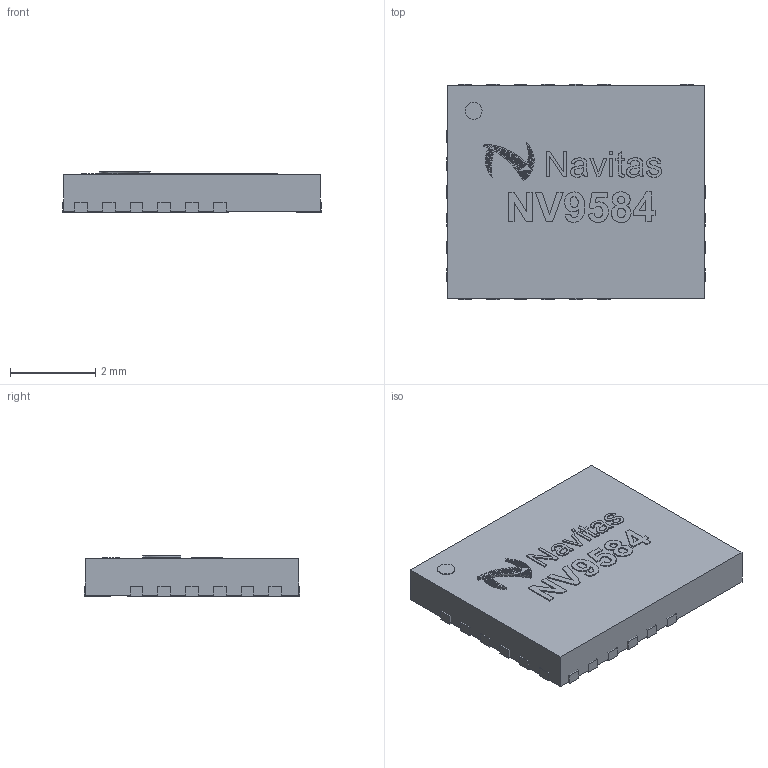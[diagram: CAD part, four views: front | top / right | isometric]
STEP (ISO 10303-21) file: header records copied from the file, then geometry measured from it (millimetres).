
FILE_DESCRIPTION(/* description */ (''),/* implementation_level */ '2;1');
FILE_NAME(/* name */ 'NV9584.step',/* time_stamp */ '2023-02-12T11:46:06-08:00',/* author */ (''),/* organization */ (''),/* preprocessor_version */ 'ST-DEVELOPER v19.2',/* originating_system */ 'Autodesk Translation Framework v11.17.0.187',/* authorisation */ '');
FILE_SCHEMA (('AUTOMOTIVE_DESIGN { 1 0 10303 214 3 1 1 }'));
Length unit declared in the file: millimetre
Products named in the file (1): NV9580
Bounding box: 6.05 x 5.05 x 0.94 mm (x, y, z)
Volume: 29.2 mm3; surface area: 126.4 mm2
Topology: 27 solids, 27 shells, 1267 faces, 2370 edges, 1157 vertices
Faces by surface type: plane 1079, bspline 176, cylinder 12
Full cylindrical faces by diameter (mm): 0.4 x1
Entity records: 30974 total; most frequent: CARTESIAN_POINT 7787, ORIENTED_EDGE 4740, DIRECTION 4226, EDGE_CURVE 2370, LINE 1994, VECTOR 1994, EDGE_LOOP 1279, FACE_OUTER_BOUND 1267
